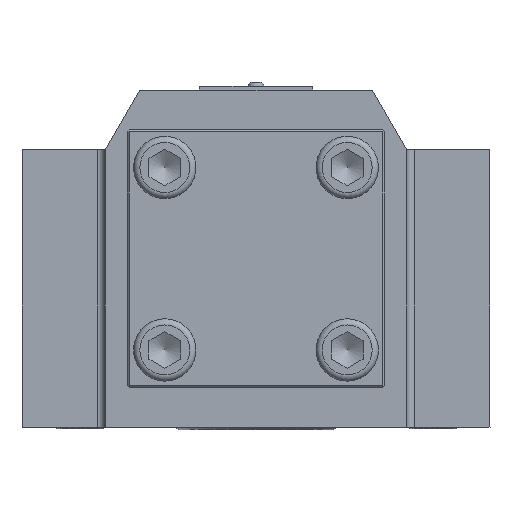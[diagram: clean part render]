
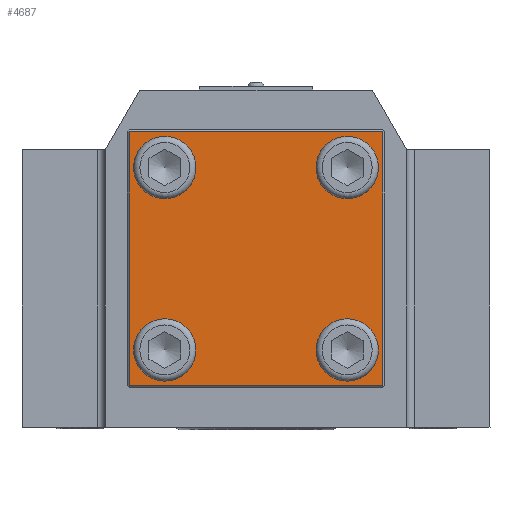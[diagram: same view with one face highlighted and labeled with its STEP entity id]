
A CAD part, left-side view. The second image highlights one B-rep face of the part: STEP entity #4687.
In plain terms, the highlighted planar face has unit normal (-1, 0, 0).
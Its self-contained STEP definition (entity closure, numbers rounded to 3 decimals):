
#1268=LINE('',#46183,#2011);
#1269=LINE('',#46186,#2012);
#1270=LINE('',#46188,#2013);
#1271=LINE('',#46190,#2014);
#2011=VECTOR('',#13350,1.);
#2012=VECTOR('',#13351,1.);
#2013=VECTOR('',#13352,1.);
#2014=VECTOR('',#13353,1.);
#4152=PLANE('',#11177);
#4687=ADVANCED_FACE('',(#5091,#5092,#5093,#5094,#5095),#4152,.F.);
#5091=FACE_BOUND('',#5755,.T.);
#5092=FACE_BOUND('',#5756,.T.);
#5093=FACE_BOUND('',#5757,.T.);
#5094=FACE_BOUND('',#5758,.T.);
#5095=FACE_BOUND('',#5759,.T.);
#5755=EDGE_LOOP('',(#8112));
#5756=EDGE_LOOP('',(#8113));
#5757=EDGE_LOOP('',(#8114));
#5758=EDGE_LOOP('',(#8115));
#5759=EDGE_LOOP('',(#8116,#8117,#8118,#8119));
#8112=ORIENTED_EDGE('',*,*,#10216,.T.);
#8113=ORIENTED_EDGE('',*,*,#10217,.T.);
#8114=ORIENTED_EDGE('',*,*,#10218,.T.);
#8115=ORIENTED_EDGE('',*,*,#10219,.T.);
#8116=ORIENTED_EDGE('',*,*,#10220,.T.);
#8117=ORIENTED_EDGE('',*,*,#10221,.T.);
#8118=ORIENTED_EDGE('',*,*,#10222,.T.);
#8119=ORIENTED_EDGE('',*,*,#10223,.T.);
#9030=VERTEX_POINT('',#46176);
#9031=VERTEX_POINT('',#46178);
#9032=VERTEX_POINT('',#46180);
#9033=VERTEX_POINT('',#46182);
#9034=VERTEX_POINT('',#46184);
#9035=VERTEX_POINT('',#46185);
#9036=VERTEX_POINT('',#46187);
#9037=VERTEX_POINT('',#46189);
#10216=EDGE_CURVE('',#9030,#9030,#10458,.T.);
#10217=EDGE_CURVE('',#9031,#9031,#10459,.T.);
#10218=EDGE_CURVE('',#9032,#9032,#10460,.T.);
#10219=EDGE_CURVE('',#9033,#9033,#10461,.T.);
#10220=EDGE_CURVE('',#9034,#9035,#1268,.T.);
#10221=EDGE_CURVE('',#9035,#9036,#1269,.T.);
#10222=EDGE_CURVE('',#9036,#9037,#1270,.T.);
#10223=EDGE_CURVE('',#9037,#9034,#1271,.T.);
#10458=CIRCLE('',#11173,5.9);
#10459=CIRCLE('',#11174,5.9);
#10460=CIRCLE('',#11175,5.9);
#10461=CIRCLE('',#11176,5.9);
#11173=AXIS2_PLACEMENT_3D('',#46175,#13342,#13343);
#11174=AXIS2_PLACEMENT_3D('',#46177,#13344,#13345);
#11175=AXIS2_PLACEMENT_3D('',#46179,#13346,#13347);
#11176=AXIS2_PLACEMENT_3D('',#46181,#13348,#13349);
#11177=AXIS2_PLACEMENT_3D('',#46191,#13354,#13355);
#13342=DIRECTION('',(1.,0.,0.));
#13343=DIRECTION('',(0.,0.,-1.));
#13344=DIRECTION('',(1.,0.,0.));
#13345=DIRECTION('',(0.,0.,-1.));
#13346=DIRECTION('',(1.,0.,0.));
#13347=DIRECTION('',(0.,0.,-1.));
#13348=DIRECTION('',(1.,0.,0.));
#13349=DIRECTION('',(0.,0.,-1.));
#13350=DIRECTION('',(0.,-1.,0.));
#13351=DIRECTION('',(0.,0.,1.));
#13352=DIRECTION('',(0.,1.,0.));
#13353=DIRECTION('',(0.,0.,-1.));
#13354=DIRECTION('',(1.,0.,0.));
#13355=DIRECTION('',(0.,0.,1.));
#46175=CARTESIAN_POINT('',(889.803,240.052,-37.337));
#46176=CARTESIAN_POINT('',(889.803,240.052,-43.237));
#46177=CARTESIAN_POINT('',(889.803,240.052,8.663));
#46178=CARTESIAN_POINT('',(889.803,240.052,2.763));
#46179=CARTESIAN_POINT('',(889.803,194.052,-37.337));
#46180=CARTESIAN_POINT('',(889.803,194.052,-43.237));
#46181=CARTESIAN_POINT('',(889.803,194.052,8.663));
#46182=CARTESIAN_POINT('',(889.803,194.052,2.763));
#46183=CARTESIAN_POINT('',(889.803,194.052,-46.337));
#46184=CARTESIAN_POINT('',(889.803,249.052,-46.337));
#46185=CARTESIAN_POINT('',(889.803,185.052,-46.337));
#46186=CARTESIAN_POINT('',(889.803,185.052,-37.337));
#46187=CARTESIAN_POINT('',(889.803,185.052,17.663));
#46188=CARTESIAN_POINT('',(889.803,194.052,17.663));
#46189=CARTESIAN_POINT('',(889.803,249.052,17.663));
#46190=CARTESIAN_POINT('',(889.803,249.052,-37.337));
#46191=CARTESIAN_POINT('',(889.803,194.052,-37.337));
